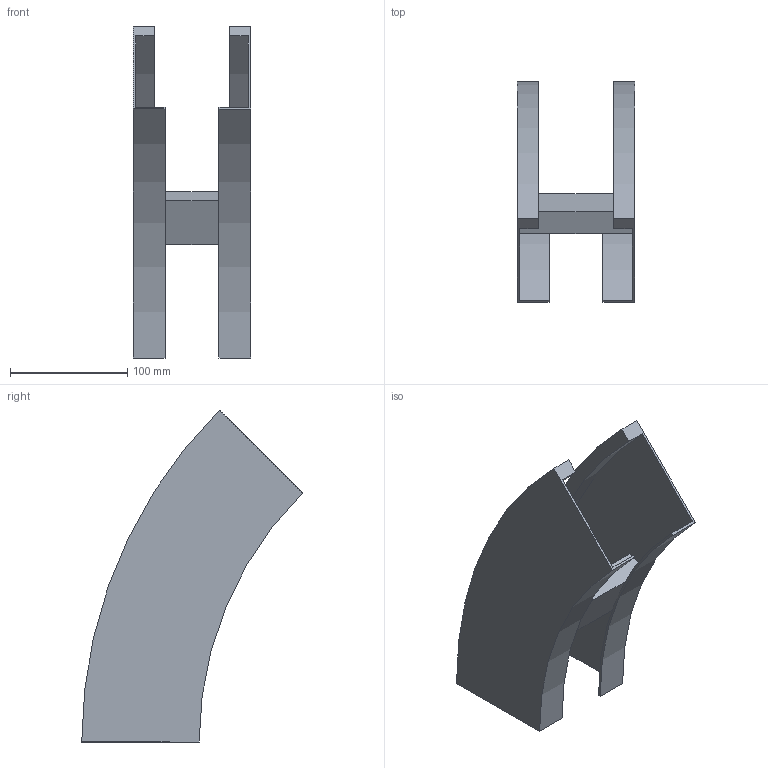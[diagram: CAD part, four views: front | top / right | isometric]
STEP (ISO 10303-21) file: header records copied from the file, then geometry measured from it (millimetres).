
FILE_DESCRIPTION (( 'STEP AP214' ), '1' );
FILE_NAME ('B2_34B3D100.step', '2025-02-21T14:51:57', ( '' ), ( '' ), 'SwSTEP 2.0', 'SolidWorks 2023', '' );
FILE_SCHEMA (( 'AUTOMOTIVE_DESIGN' ));
Length unit declared in the file: millimetre
Products named in the file (3): B2_34B3D100; B2_LONGH.DISCESA_45°_H100_R300; TRAVERSINO_100
Assembly tree (3 placements, depth 2):
  B2_34B3D100
    B2_LONGH.DISCESA_45°_H100_R300  x2
    TRAVERSINO_100
Bounding box: 100 x 187.87 x 282.84 mm (x, y, z)
Volume: 330183.8 mm3; surface area: 170603.9 mm2
Topology: 3 solids, 3 shells, 26 faces, 60 edges, 40 vertices
Faces by surface type: plane 18, cylinder 8
Entity records: 544 total; most frequent: DIRECTION 88, CARTESIAN_POINT 82, ORIENTED_EDGE 72, EDGE_CURVE 36, AXIS2_PLACEMENT_3D 30, VECTOR 28, LINE 28, VERTEX_POINT 24
